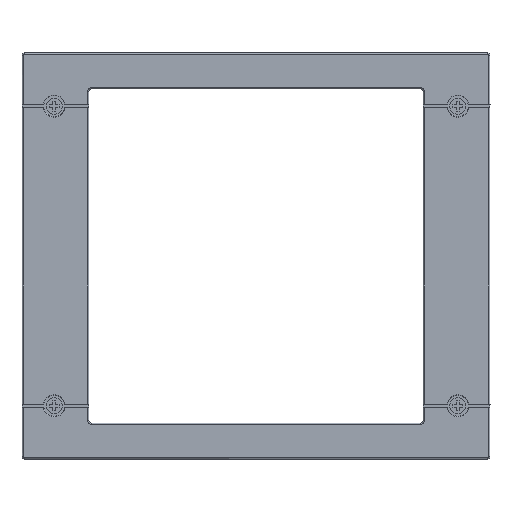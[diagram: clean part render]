
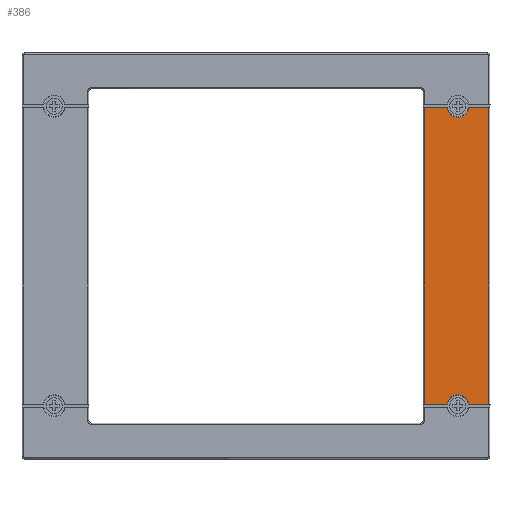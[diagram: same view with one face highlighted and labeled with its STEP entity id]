
A CAD part, top view. The second image highlights one B-rep face of the part: STEP entity #386.
In plain terms, the highlighted planar face has unit normal (0, 0, 1).
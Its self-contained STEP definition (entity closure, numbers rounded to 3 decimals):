
#386=ADVANCED_FACE('',(#4209),#4211,.T.);
#4209=FACE_BOUND('',#4210,.T.);
#4210=EDGE_LOOP('',(#7314,#7315,#7316,#7317,#7318,#7319,#7320,#7321));
#4211=PLANE('',#4212);
#4212=AXIS2_PLACEMENT_3D('',#4213,#4214,#4215);
#4213=CARTESIAN_POINT('',(94.5,82.,10.));
#4214=DIRECTION('',(0.,0.,1.));
#4215=DIRECTION('',(1.,0.,0.));
#7314=ORIENTED_EDGE('',*,*,#9522,.T.);
#7315=ORIENTED_EDGE('',*,*,#9523,.T.);
#7316=ORIENTED_EDGE('',*,*,#9524,.F.);
#7317=ORIENTED_EDGE('',*,*,#9525,.T.);
#7318=ORIENTED_EDGE('',*,*,#9526,.T.);
#7319=ORIENTED_EDGE('',*,*,#9527,.T.);
#7320=ORIENTED_EDGE('',*,*,#9528,.F.);
#7321=ORIENTED_EDGE('',*,*,#9529,.T.);
#9522=EDGE_CURVE('',#10837,#10840,#10842,.T.);
#9523=EDGE_CURVE('',#10840,#10843,#10844,.T.);
#9524=EDGE_CURVE('',#10845,#10843,#10846,.T.);
#9525=EDGE_CURVE('',#10845,#10847,#10848,.T.);
#9526=EDGE_CURVE('',#10847,#10849,#10850,.T.);
#9527=EDGE_CURVE('',#10849,#10851,#10852,.T.);
#9528=EDGE_CURVE('',#10853,#10851,#10854,.T.);
#9529=EDGE_CURVE('',#10853,#10837,#10855,.T.);
#10837=VERTEX_POINT('',#13682);
#10840=VERTEX_POINT('',#13710);
#10842=LINE('',#13724,#13725);
#10843=VERTEX_POINT('',#13727);
#10844=LINE('',#13728,#13729);
#10845=VERTEX_POINT('',#13731);
#10846=B_SPLINE_CURVE_WITH_KNOTS('',3,
(#13732,#13733,#13734,#13735,#13736,#13737,#13738,#13739,#13740,#13741,#13742,#13743,
#13744,#13745,#13746,#13747,#13748,#13749,#13750,#13751,#13752,#13753,#13754,#13755,
#13756,#13757,#13758,#13759,#13760,#13761,#13762,#13763,#13764,#13765,#13766,#13767,
#13768,#13769,#13770,#13771,#13772,#13773,#13774,#13775),
.UNSPECIFIED.,.F.,.F.,
(4,2,2,2,2,2,2,2,2,2,2,2,2,2,2,2,2,2,2,2,2,4),
(0.,0.058,0.114,0.167,0.216,0.261,
0.311,0.36,0.408,0.455,0.502,
0.549,0.596,0.643,0.691,0.74,
0.789,0.835,0.884,0.937,0.993,
1.),
.UNSPECIFIED.);
#10847=VERTEX_POINT('',#13776);
#10848=LINE('',#13777,#13778);
#10849=VERTEX_POINT('',#13780);
#10850=LINE('',#13781,#13782);
#10851=VERTEX_POINT('',#13784);
#10852=LINE('',#13785,#13786);
#10853=VERTEX_POINT('',#13788);
#10854=CIRCLE('',#13789,4.45);
#10855=LINE('',#13793,#13794);
#13682=CARTESIAN_POINT('',(188.5,22.2,10.));
#13710=CARTESIAN_POINT('',(188.5,141.8,10.));
#13724=CARTESIAN_POINT('',(188.5,22.2,10.));
#13725=VECTOR('',#13726,1.);
#13726=DIRECTION('',(0.,1.,0.));
#13727=CARTESIAN_POINT('',(180.395,141.8,10.));
#13728=CARTESIAN_POINT('',(188.5,141.8,10.));
#13729=VECTOR('',#13730,1.);
#13730=DIRECTION('',(-1.,0.,0.));
#13731=CARTESIAN_POINT('',(171.605,141.8,10.));
#13732=CARTESIAN_POINT('',(171.605,141.8,10.));
#13733=CARTESIAN_POINT('',(171.637,141.627,10.));
#13734=CARTESIAN_POINT('',(171.669,141.455,10.));
#13735=CARTESIAN_POINT('',(171.773,141.1,10.));
#13736=CARTESIAN_POINT('',(171.834,140.92,10.));
#13737=CARTESIAN_POINT('',(171.988,140.568,10.));
#13738=CARTESIAN_POINT('',(172.074,140.393,10.));
#13739=CARTESIAN_POINT('',(172.274,140.061,10.));
#13740=CARTESIAN_POINT('',(172.383,139.899,10.));
#13741=CARTESIAN_POINT('',(172.622,139.598,10.));
#13742=CARTESIAN_POINT('',(172.75,139.453,10.));
#13743=CARTESIAN_POINT('',(173.046,139.166,10.));
#13744=CARTESIAN_POINT('',(173.217,139.019,10.));
#13745=CARTESIAN_POINT('',(173.582,138.758,10.));
#13746=CARTESIAN_POINT('',(173.779,138.636,10.));
#13747=CARTESIAN_POINT('',(174.19,138.429,10.));
#13748=CARTESIAN_POINT('',(174.408,138.337,10.));
#13749=CARTESIAN_POINT('',(174.853,138.195,10.));
#13750=CARTESIAN_POINT('',(175.086,138.138,10.));
#13751=CARTESIAN_POINT('',(175.552,138.067,10.));
#13752=CARTESIAN_POINT('',(175.793,138.049,10.));
#13753=CARTESIAN_POINT('',(176.264,138.052,10.));
#13754=CARTESIAN_POINT('',(176.504,138.073,10.));
#13755=CARTESIAN_POINT('',(176.966,138.15,10.));
#13756=CARTESIAN_POINT('',(177.197,138.208,10.));
#13757=CARTESIAN_POINT('',(177.635,138.354,10.));
#13758=CARTESIAN_POINT('',(177.85,138.447,10.));
#13759=CARTESIAN_POINT('',(178.252,138.654,10.));
#13760=CARTESIAN_POINT('',(178.444,138.776,10.));
#13761=CARTESIAN_POINT('',(178.801,139.034,10.));
#13762=CARTESIAN_POINT('',(178.967,139.178,10.));
#13763=CARTESIAN_POINT('',(179.272,139.475,10.));
#13764=CARTESIAN_POINT('',(179.41,139.635,10.));
#13765=CARTESIAN_POINT('',(179.647,139.942,10.));
#13766=CARTESIAN_POINT('',(179.747,140.094,10.));
#13767=CARTESIAN_POINT('',(179.931,140.404,10.));
#13768=CARTESIAN_POINT('',(180.011,140.566,10.));
#13769=CARTESIAN_POINT('',(180.155,140.894,10.));
#13770=CARTESIAN_POINT('',(180.214,141.064,10.));
#13771=CARTESIAN_POINT('',(180.317,141.402,10.));
#13772=CARTESIAN_POINT('',(180.355,141.572,10.));
#13773=CARTESIAN_POINT('',(180.388,141.757,10.));
#13774=CARTESIAN_POINT('',(180.391,141.778,10.));
#13775=CARTESIAN_POINT('',(180.395,141.8,10.));
#13776=CARTESIAN_POINT('',(162.5,141.8,10.));
#13777=CARTESIAN_POINT('',(171.605,141.8,10.));
#13778=VECTOR('',#13779,1.);
#13779=DIRECTION('',(-1.,0.,0.));
#13780=CARTESIAN_POINT('',(162.5,22.2,10.));
#13781=CARTESIAN_POINT('',(162.5,141.8,10.));
#13782=VECTOR('',#13783,1.);
#13783=DIRECTION('',(0.,-1.,0.));
#13784=CARTESIAN_POINT('',(171.605,22.2,10.));
#13785=CARTESIAN_POINT('',(162.5,22.2,10.));
#13786=VECTOR('',#13787,1.);
#13787=DIRECTION('',(1.,0.,0.));
#13788=CARTESIAN_POINT('',(180.395,22.2,10.));
#13789=AXIS2_PLACEMENT_3D('',#13790,#13791,#13792);
#13790=CARTESIAN_POINT('',(176.,21.5,10.));
#13791=DIRECTION('',(0.,0.,1.));
#13792=DIRECTION('',(0.988,0.157,0.));
#13793=CARTESIAN_POINT('',(180.395,22.2,10.));
#13794=VECTOR('',#13795,1.);
#13795=DIRECTION('',(1.,0.,0.));
